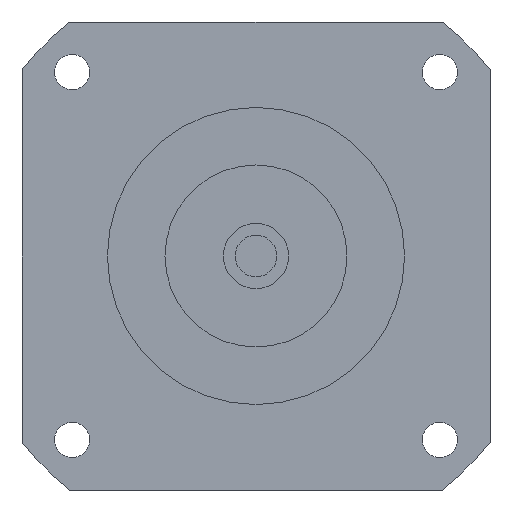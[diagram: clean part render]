
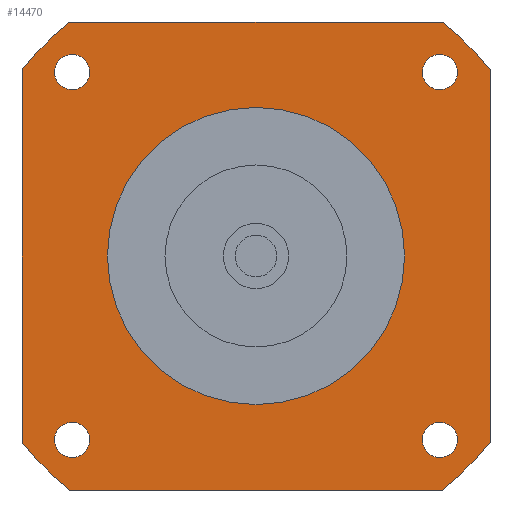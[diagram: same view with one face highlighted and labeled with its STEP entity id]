
A CAD part, left-side view. The second image highlights one B-rep face of the part: STEP entity #14470.
In plain terms, the highlighted planar face has unit normal (-1, 0, 0) as drawn and (0, 0, -1) by its records, which use the part's own axes.
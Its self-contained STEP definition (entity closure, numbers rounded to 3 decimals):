
#10240=CARTESIAN_POINT('',(63.961,-70.711,-66.7));
#10250=VERTEX_POINT('',#10240);
#10280=CARTESIAN_POINT('',(70.711,-70.711,-66.7));
#10290=DIRECTION('',(0.,0.,-1.));
#10300=DIRECTION('',(1.,0.,0.));
#10310=AXIS2_PLACEMENT_3D('',#10280,#10290,#10300);
#10320=CIRCLE('',#10310,6.75);
#10330=CARTESIAN_POINT('',(77.461,-70.711,-66.7));
#10340=VERTEX_POINT('',#10330);
#10350=EDGE_CURVE('',#10340,#10250,#10320,.T.);
#10590=CARTESIAN_POINT('',(90.,71.589,-66.7));
#10600=VERTEX_POINT('',#10590);
#10650=CARTESIAN_POINT('',(90.,90.,-66.7));
#10660=DIRECTION('',(0.,-1.,0.));
#10670=VECTOR('',#10660,1000.);
#10680=LINE('',#10650,#10670);
#10690=CARTESIAN_POINT('',(90.,-71.589,-66.7));
#10700=VERTEX_POINT('',#10690);
#10710=EDGE_CURVE('',#10600,#10700,#10680,.T.);
#12990=CARTESIAN_POINT('',(70.711,63.961,-66.7));
#13000=VERTEX_POINT('',#12990);
#13030=CARTESIAN_POINT('',(70.711,70.711,-66.7));
#13040=DIRECTION('',(0.,0.,-1.));
#13050=DIRECTION('',(0.,1.,0.));
#13060=AXIS2_PLACEMENT_3D('',#13030,#13040,#13050);
#13070=CIRCLE('',#13060,6.75);
#13080=CARTESIAN_POINT('',(70.711,77.461,-66.7));
#13090=VERTEX_POINT('',#13080);
#13100=EDGE_CURVE('',#13090,#13000,#13070,.T.);
#13220=CARTESIAN_POINT('',(90.,90.,-66.7));
#13230=DIRECTION('',(0.,0.,-1.));
#13240=DIRECTION('',(1.,0.,0.));
#13250=AXIS2_PLACEMENT_3D('',#13220,#13230,#13240);
#13260=PLANE('',#13250);
#13270=CARTESIAN_POINT('',(-70.711,-70.711,-66.7));
#13280=DIRECTION('',(0.,0.,-1.));
#13290=DIRECTION('',(0.,-1.,0.));
#13300=AXIS2_PLACEMENT_3D('',#13270,#13280,#13290);
#13310=CIRCLE('',#13300,6.75);
#13320=CARTESIAN_POINT('',(-70.711,-77.461,-66.7));
#13330=VERTEX_POINT('',#13320);
#13340=CARTESIAN_POINT('',(-70.711,-63.961,-66.7));
#13350=VERTEX_POINT('',#13340);
#13360=EDGE_CURVE('',#13330,#13350,#13310,.T.);
#13370=ORIENTED_EDGE('',*,*,#13360,.F.);
#13380=EDGE_CURVE('',#13350,#13330,#13310,.T.);
#13390=ORIENTED_EDGE('',*,*,#13380,.F.);
#13400=EDGE_LOOP('',(#13390,#13370));
#13410=FACE_BOUND('',#13400,.T.);
#13420=CARTESIAN_POINT('',(-70.711,70.711,-66.7));
#13430=DIRECTION('',(0.,0.,-1.));
#13440=DIRECTION('',(-1.,0.,0.));
#13450=AXIS2_PLACEMENT_3D('',#13420,#13430,#13440);
#13460=CIRCLE('',#13450,6.75);
#13470=CARTESIAN_POINT('',(-77.461,70.711,-66.7));
#13480=VERTEX_POINT('',#13470);
#13490=CARTESIAN_POINT('',(-63.961,70.711,-66.7));
#13500=VERTEX_POINT('',#13490);
#13510=EDGE_CURVE('',#13480,#13500,#13460,.T.);
#13520=ORIENTED_EDGE('',*,*,#13510,.F.);
#13530=EDGE_CURVE('',#13500,#13480,#13460,.T.);
#13540=ORIENTED_EDGE('',*,*,#13530,.F.);
#13550=EDGE_LOOP('',(#13540,#13520));
#13560=FACE_BOUND('',#13550,.T.);
#13570=ORIENTED_EDGE('',*,*,#13100,.F.);
#13580=EDGE_CURVE('',#13000,#13090,#13070,.T.);
#13590=ORIENTED_EDGE('',*,*,#13580,.F.);
#13600=EDGE_LOOP('',(#13590,#13570));
#13610=FACE_BOUND('',#13600,.T.);
#13620=CARTESIAN_POINT('',(0.,0.,
-66.7));
#13630=DIRECTION('',(0.,0.,1.));
#13640=DIRECTION('',(0.,1.,0.));
#13650=AXIS2_PLACEMENT_3D('',#13620,#13630,#13640);
#13660=CIRCLE('',#13650,57.15);
#13670=CARTESIAN_POINT('',(-57.15,0.,-66.7));
#13680=VERTEX_POINT('',#13670);
#13690=CARTESIAN_POINT('',(57.15,0.,-66.7));
#13700=VERTEX_POINT('',#13690);
#13710=EDGE_CURVE('',#13680,#13700,#13660,.T.);
#13720=ORIENTED_EDGE('',*,*,#13710,.T.);
#13730=CARTESIAN_POINT('',(0.,57.15,-66.7));
#13740=VERTEX_POINT('',#13730);
#13750=EDGE_CURVE('',#13740,#13680,#13660,.T.);
#13760=ORIENTED_EDGE('',*,*,#13750,.T.);
#13770=EDGE_CURVE('',#13700,#13740,#13660,.T.);
#13780=ORIENTED_EDGE('',*,*,#13770,.T.);
#13790=EDGE_LOOP('',(#13780,#13760,#13720));
#13800=FACE_BOUND('',#13790,.T.);
#13810=CARTESIAN_POINT('',(-90.,90.,-66.7));
#13820=DIRECTION('',(1.,0.,0.));
#13830=VECTOR('',#13820,1000.);
#13840=LINE('',#13810,#13830);
#13850=CARTESIAN_POINT('',(-71.589,90.,-66.7));
#13860=VERTEX_POINT('',#13850);
#13870=CARTESIAN_POINT('',(71.589,90.,-66.7));
#13880=VERTEX_POINT('',#13870);
#13890=EDGE_CURVE('',#13860,#13880,#13840,.T.);
#13900=ORIENTED_EDGE('',*,*,#13890,.T.);
#13910=CARTESIAN_POINT('',(0.,0.,
-66.7));
#13920=DIRECTION('',(0.,0.,-1.));
#13930=DIRECTION('',(1.,0.,0.));
#13940=AXIS2_PLACEMENT_3D('',#13910,#13920,#13930);
#13950=CIRCLE('',#13940,115.);
#13960=CARTESIAN_POINT('',(-90.,71.589,-66.7));
#13970=VERTEX_POINT('',#13960);
#13980=EDGE_CURVE('',#13970,#13860,#13950,.T.);
#13990=ORIENTED_EDGE('',*,*,#13980,.T.);
#14000=CARTESIAN_POINT('',(-90.,-90.,-66.7));
#14010=DIRECTION('',(0.,1.,0.));
#14020=VECTOR('',#14010,1000.);
#14030=LINE('',#14000,#14020);
#14040=CARTESIAN_POINT('',(-90.,-71.589,-66.7));
#14050=VERTEX_POINT('',#14040);
#14060=EDGE_CURVE('',#14050,#13970,#14030,.T.);
#14070=ORIENTED_EDGE('',*,*,#14060,.T.);
#14080=CARTESIAN_POINT('',(0.,0.,
-66.7));
#14090=DIRECTION('',(0.,0.,-1.));
#14100=DIRECTION('',(1.,0.,0.));
#14110=AXIS2_PLACEMENT_3D('',#14080,#14090,#14100);
#14120=CIRCLE('',#14110,115.);
#14130=CARTESIAN_POINT('',(-71.589,-90.,-66.7));
#14140=VERTEX_POINT('',#14130);
#14150=EDGE_CURVE('',#14140,#14050,#14120,.T.);
#14160=ORIENTED_EDGE('',*,*,#14150,.T.);
#14170=CARTESIAN_POINT('',(90.,-90.,-66.7));
#14180=DIRECTION('',(-1.,0.,0.));
#14190=VECTOR('',#14180,1000.);
#14200=LINE('',#14170,#14190);
#14210=CARTESIAN_POINT('',(71.589,-90.,-66.7));
#14220=VERTEX_POINT('',#14210);
#14230=EDGE_CURVE('',#14220,#14140,#14200,.T.);
#14240=ORIENTED_EDGE('',*,*,#14230,.T.);
#14250=CARTESIAN_POINT('',(0.,0.,
-66.7));
#14260=DIRECTION('',(0.,0.,-1.));
#14270=DIRECTION('',(1.,0.,0.));
#14280=AXIS2_PLACEMENT_3D('',#14250,#14260,#14270);
#14290=CIRCLE('',#14280,115.);
#14300=EDGE_CURVE('',#10700,#14220,#14290,.T.);
#14310=ORIENTED_EDGE('',*,*,#14300,.T.);
#14320=ORIENTED_EDGE('',*,*,#10710,.T.);
#14330=CARTESIAN_POINT('',(0.,0.,
-66.7));
#14340=DIRECTION('',(0.,0.,-1.));
#14350=DIRECTION('',(1.,0.,0.));
#14360=AXIS2_PLACEMENT_3D('',#14330,#14340,#14350);
#14370=CIRCLE('',#14360,115.);
#14380=EDGE_CURVE('',#13880,#10600,#14370,.T.);
#14390=ORIENTED_EDGE('',*,*,#14380,.T.);
#14400=EDGE_LOOP('',(#14390,#14320,#14310,#14240,#14160,#14070,#13990,
#13900));
#14410=FACE_OUTER_BOUND('',#14400,.T.);
#14420=ORIENTED_EDGE('',*,*,#10350,.F.);
#14430=EDGE_CURVE('',#10250,#10340,#10320,.T.);
#14440=ORIENTED_EDGE('',*,*,#14430,.F.);
#14450=EDGE_LOOP('',(#14440,#14420));
#14460=FACE_BOUND('',#14450,.T.);
#14470=ADVANCED_FACE('',(#13410,#13560,#13610,#13800,#14410,#14460),
#13260,.T.);
